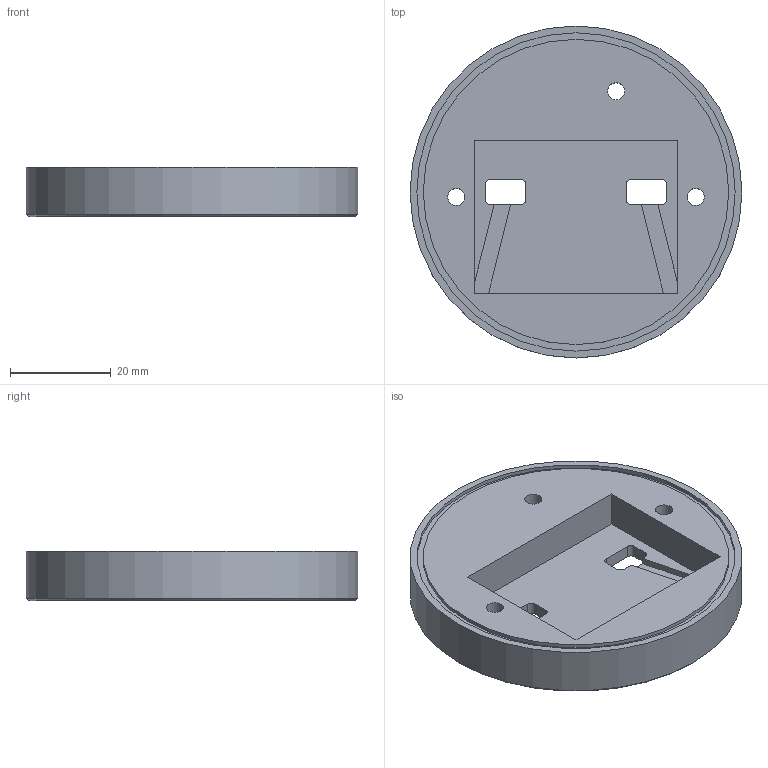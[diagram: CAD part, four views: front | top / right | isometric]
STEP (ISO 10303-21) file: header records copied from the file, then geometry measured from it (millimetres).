
FILE_DESCRIPTION(('Open CASCADE Model'),'2;1');
FILE_NAME('Open CASCADE Shape Model','2026-11-10T13:49:22',('Author'),( 'Open CASCADE'),'Open CASCADE STEP processor 7.9','Open CASCADE 7.9' ,'Unknown');
FILE_SCHEMA(('AUTOMOTIVE_DESIGN { 1 0 10303 214 1 1 1 1 }'));
Length unit declared in the file: millimetre
Products named in the file (2): base-disk-model; base-disk
Assembly tree (1 placements, depth 2):
  base-disk-model
    base-disk
Bounding box: 66 x 66 x 9.8 mm (x, y, z)
Volume: 23675.8 mm3; surface area: 10470.2 mm2
Topology: 1 solids, 1 shells, 42 faces, 112 edges, 73 vertices
Faces by surface type: plane 25, cylinder 16, cone 1
Full cylindrical faces by diameter (mm): 3.4 x3, 60.7 x1, 63.3 x1, 66 x1
Entity records: 2857 total; most frequent: CARTESIAN_POINT 519, DIRECTION 448, LINE 267, VECTOR 267, ORIENTED_EDGE 224, PCURVE 224, DEFINITIONAL_REPRESENTATION 224, EDGE_CURVE 112
